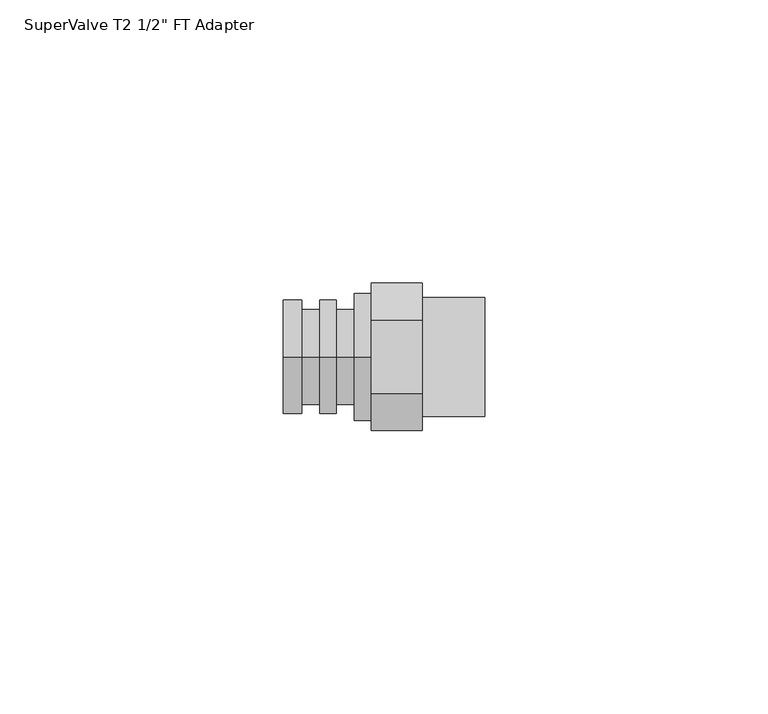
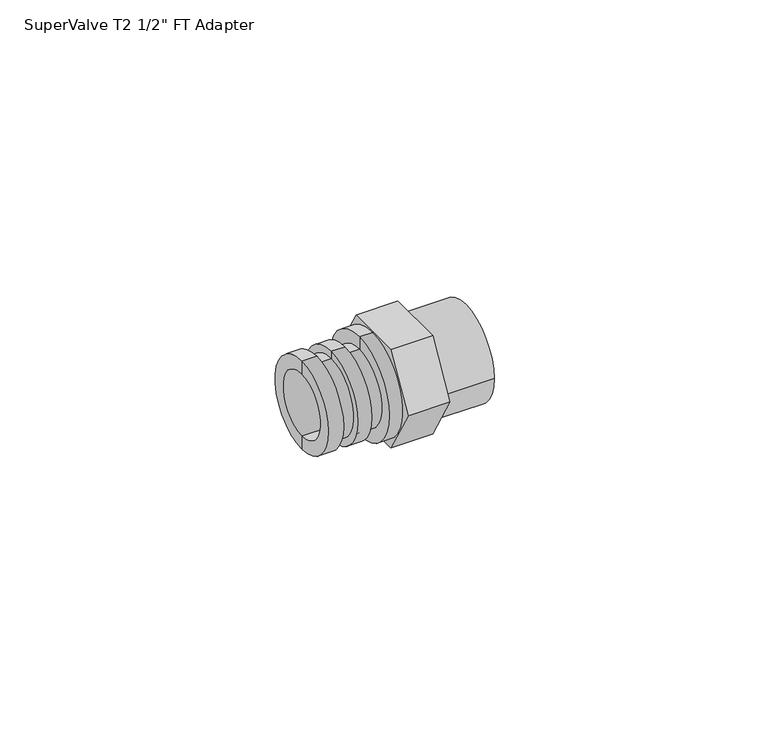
"""IFC4 building model written with IfcOpenShell, lengths in millimetres: valve geometry."""

from ifc_helpers import new_model, si_unit, point, frame, origin, origin_2d, place, context, project, spatial, polyline, circle_curve, trimmed, segment, composite_curve, outline, extrude, source, transform, mapped, element, save
from ifc_brep_helpers import plane_surface, cylinder_surface, revolved_surface, advanced_brep


def valve_ad88a9f9(model_context):
    return source(origin(), model_context, "Body", "SolidModel", [
        extrude(outline(polyline([(-12.9903811, 0.0), (-6.4951905, 11.25), (6.4951905, 11.25), (12.9903811, 0.0), (6.4951905, -11.25), (-6.4951905, -11.25), (-12.9903811, 0.0)])), frame((15.5, 0.0, 0.0), z_axis=(1.0, 0.0, 0.0), x_axis=(0.0, 1.0, 0.0)), (0.0, 0.0, 1.0), 9.0),
        extrude(outline(composite_curve([segment(trimmed(circle_curve(origin_2d(), 10.5), [point((-10.5, 0.0))], [point((10.5, 0.0))], False, "CARTESIAN"), True, "CONTINUOUS"), segment(trimmed(circle_curve(origin_2d(), 10.5), [point((10.5, 0.0))], [point((-10.5, 0.0))], False, "CARTESIAN"), True, "CONTINUOUS")], self_intersect=False), holes=[composite_curve([segment(trimmed(circle_curve(origin_2d(), 6.0), [point((-6.0, 0.0))], [point((6.0, 0.0))], True, "CARTESIAN"), True, "CONTINUOUS"), segment(trimmed(circle_curve(origin_2d(), 6.0), [point((6.0, 0.0))], [point((-6.0, 0.0))], True, "CARTESIAN"), True, "CONTINUOUS")], self_intersect=False)]), frame((24.5, 0.0, 0.0), z_axis=(1.0, 0.0, 0.0), x_axis=(0.0, 1.0, 0.0)), (0.0, 0.0, 1.0), 11.0),
        advanced_brep(
        [(12.5, 0.0, -11.25), (12.5, 0.0, 11.25), (15.5, 0.0, 11.25), (15.5, 0.0, -11.25), (15.5, 0.0, 6.0), (15.5, 0.0, -6.0), (12.5, 0.0, -6.0), (12.5, 0.0, 6.0), (12.5, 0.0, 7.1), (12.5, 0.0, -7.1), (12.5, 0.0, -8.4), (12.5, 0.0, 8.4), (9.3, 0.0, -8.4), (9.3, 0.0, 8.4), (9.3, 0.0, -10.05), (9.3, 0.0, 10.05), (6.4, 0.0, -10.05), (6.4, 0.0, 10.05), (6.4, 0.0, -8.4), (6.4, 0.0, 8.4), (3.2, 0.0, -8.4), (3.2, 0.0, 8.4), (3.2, 0.0, -10.05), (3.2, 0.0, 10.05), (0.0, 0.0, -10.05), (0.0, 0.0, 10.05), (0.0, 0.0, -7.1), (0.0, 0.0, 7.1)],
        [
            (0, 1, circle_curve(frame((12.5, 0.0, 0.0), z_axis=(1.0, 0.0, 0.0), x_axis=(0.0, 0.0, 1.0)), 11.25)),
            (1, 2),
            (2, 3, circle_curve(frame((15.5, 0.0, 0.0), z_axis=(-1.0, 0.0, 0.0), x_axis=(0.0, 0.0, 1.0)), 11.25)),
            (3, 0),
            (1, 0, circle_curve(frame((12.5, 0.0, 0.0), z_axis=(1.0, 0.0, 0.0), x_axis=(0.0, 0.0, 1.0)), 11.25)),
            (3, 2, circle_curve(frame((15.5, 0.0, 0.0), z_axis=(-1.0, 0.0, 0.0), x_axis=(0.0, 0.0, 1.0)), 11.25)),
            (2, 4),
            (4, 5, circle_curve(frame((15.5, 0.0, 0.0), z_axis=(-1.0, 0.0, 0.0), x_axis=(0.0, 0.0, 1.0)), 6.0)),
            (5, 3),
            (5, 4, circle_curve(frame((15.5, 0.0, 0.0), z_axis=(-1.0, 0.0, 0.0), x_axis=(0.0, 0.0, 1.0)), 6.0)),
            (6, 7, circle_curve(frame((12.5, 0.0, 0.0), z_axis=(1.0, 0.0, 0.0), x_axis=(0.0, 0.0, 1.0)), 6.0)),
            (7, 8),
            (8, 9, circle_curve(frame((12.5, 0.0, 0.0), z_axis=(-1.0, 0.0, 0.0), x_axis=(0.0, 0.0, 1.0)), 7.1)),
            (9, 6),
            (7, 6, circle_curve(frame((12.5, 0.0, 0.0), z_axis=(1.0, 0.0, 0.0), x_axis=(0.0, 0.0, 1.0)), 6.0)),
            (9, 8, circle_curve(frame((12.5, 0.0, 0.0), z_axis=(-1.0, 0.0, 0.0), x_axis=(0.0, 0.0, 1.0)), 7.1)),
            (10, 11, circle_curve(frame((12.5, 0.0, 0.0), z_axis=(1.0, 0.0, 0.0), x_axis=(0.0, 0.0, 1.0)), 8.4)),
            (11, 1),
            (0, 10),
            (11, 10, circle_curve(frame((12.5, 0.0, 0.0), z_axis=(1.0, 0.0, 0.0), x_axis=(0.0, 0.0, 1.0)), 8.4)),
            (12, 13, circle_curve(frame((9.3, 0.0, 0.0), z_axis=(1.0, 0.0, 0.0), x_axis=(0.0, 0.0, 1.0)), 8.4)),
            (13, 11),
            (10, 12),
            (13, 12, circle_curve(frame((9.3, 0.0, 0.0), z_axis=(1.0, 0.0, 0.0), x_axis=(0.0, 0.0, 1.0)), 8.4)),
            (14, 15, circle_curve(frame((9.3, 0.0, 0.0), z_axis=(1.0, 0.0, 0.0), x_axis=(0.0, 0.0, 1.0)), 10.05)),
            (15, 13),
            (12, 14),
            (15, 14, circle_curve(frame((9.3, 0.0, 0.0), z_axis=(1.0, 0.0, 0.0), x_axis=(0.0, 0.0, 1.0)), 10.05)),
            (16, 17, circle_curve(frame((6.4, 0.0, 0.0), z_axis=(1.0, 0.0, 0.0), x_axis=(0.0, 0.0, 1.0)), 10.05)),
            (17, 15),
            (14, 16),
            (17, 16, circle_curve(frame((6.4, 0.0, 0.0), z_axis=(1.0, 0.0, 0.0), x_axis=(0.0, 0.0, 1.0)), 10.05)),
            (18, 19, circle_curve(frame((6.4, 0.0, 0.0), z_axis=(1.0, 0.0, 0.0), x_axis=(0.0, 0.0, 1.0)), 8.4)),
            (19, 17),
            (16, 18),
            (19, 18, circle_curve(frame((6.4, 0.0, 0.0), z_axis=(1.0, 0.0, 0.0), x_axis=(0.0, 0.0, 1.0)), 8.4)),
            (20, 21, circle_curve(frame((3.2, 0.0, 0.0), z_axis=(1.0, 0.0, 0.0), x_axis=(0.0, 0.0, 1.0)), 8.4)),
            (21, 19),
            (18, 20),
            (21, 20, circle_curve(frame((3.2, 0.0, 0.0), z_axis=(1.0, 0.0, 0.0), x_axis=(0.0, 0.0, 1.0)), 8.4)),
            (22, 23, circle_curve(frame((3.2, 0.0, 0.0), z_axis=(1.0, 0.0, 0.0), x_axis=(0.0, 0.0, 1.0)), 10.05)),
            (23, 21),
            (20, 22),
            (23, 22, circle_curve(frame((3.2, 0.0, 0.0), z_axis=(1.0, 0.0, 0.0), x_axis=(0.0, 0.0, 1.0)), 10.05)),
            (24, 25, circle_curve(frame((0.0, 0.0, 0.0), z_axis=(1.0, 0.0, 0.0), x_axis=(0.0, 0.0, 1.0)), 10.05)),
            (25, 23),
            (22, 24),
            (25, 24, circle_curve(frame((0.0, 0.0, 0.0), z_axis=(1.0, 0.0, 0.0), x_axis=(0.0, 0.0, 1.0)), 10.05)),
            (26, 27, circle_curve(frame((0.0, 0.0, 0.0), z_axis=(1.0, 0.0, 0.0), x_axis=(0.0, 0.0, 1.0)), 7.1)),
            (27, 25),
            (24, 26),
            (27, 26, circle_curve(frame((0.0, 0.0, 0.0), z_axis=(1.0, 0.0, 0.0), x_axis=(0.0, 0.0, 1.0)), 7.1)),
            (8, 27),
            (26, 9),
            (4, 7),
            (6, 5),
        ],
        [
            cylinder_surface(frame((19.0, 0.0, 0.0), z_axis=(-1.0, 0.0, 0.0), x_axis=(0.0, 0.0, 1.0)), 11.25),
            plane_surface(frame((15.5, 0.0, 0.0), z_axis=(1.0, 0.0, 0.0), x_axis=(0.0, 0.0, 1.0))),
            plane_surface(frame((12.5, 0.0, 0.0), z_axis=(-1.0, 0.0, 0.0), x_axis=(0.0, 0.0, 1.0))),
            cylinder_surface(frame((19.0, 0.0, 0.0), z_axis=(-1.0, 0.0, 0.0), x_axis=(0.0, 0.0, 1.0)), 8.4),
            plane_surface(frame((9.3, 0.0, 0.0), z_axis=(1.0, 0.0, 0.0), x_axis=(0.0, 0.0, 1.0))),
            cylinder_surface(frame((19.0, 0.0, 0.0), z_axis=(-1.0, 0.0, 0.0), x_axis=(0.0, 0.0, 1.0)), 10.05),
            plane_surface(frame((6.4, 0.0, 0.0), z_axis=(-1.0, 0.0, 0.0), x_axis=(0.0, 0.0, 1.0))),
            plane_surface(frame((3.2, 0.0, 0.0), z_axis=(1.0, 0.0, 0.0), x_axis=(0.0, 0.0, 1.0))),
            plane_surface(frame((0.0, 0.0, 0.0), z_axis=(-1.0, 0.0, 0.0), x_axis=(0.0, 0.0, 1.0))),
            revolved_surface(polyline([(0.0, 0.0, 7.1), (12.5, 0.0, 7.1)]), (19.0, 0.0, 0.0), (-1.0, 0.0, 0.0)),
            revolved_surface(polyline([(12.5, 0.0, 6.0), (15.5, 0.0, 6.0)]), (19.0, 0.0, 0.0), (-1.0, 0.0, 0.0)),
        ],
        [
            (0, [[1, 2, 3, 4]]),
            (0, [[5, -4, 6, -2]]),
            (1, [[-3, 7, 8, 9]]),
            (1, [[-6, -9, 10, -7]]),
            (2, [[11, 12, 13, 14]]),
            (2, [[15, -14, 16, -12]]),
            (2, [[17, 18, -1, 19]]),
            (2, [[20, -19, -5, -18]]),
            (3, [[21, 22, -17, 23]]),
            (3, [[24, -23, -20, -22]]),
            (4, [[25, 26, -21, 27]]),
            (4, [[28, -27, -24, -26]]),
            (5, [[29, 30, -25, 31]]),
            (5, [[32, -31, -28, -30]]),
            (6, [[33, 34, -29, 35]]),
            (6, [[36, -35, -32, -34]]),
            (3, [[37, 38, -33, 39]]),
            (3, [[40, -39, -36, -38]]),
            (7, [[41, 42, -37, 43]]),
            (7, [[44, -43, -40, -42]]),
            (5, [[45, 46, -41, 47]]),
            (5, [[48, -47, -44, -46]]),
            (8, [[49, 50, -45, 51]]),
            (8, [[52, -51, -48, -50]]),
            (9, [[-13, 53, -49, 54]]),
            (9, [[-16, -54, -52, -53]]),
            (10, [[-8, 55, -11, 56]]),
            (10, [[-10, -56, -15, -55]]),
        ],
    ),
    ])


if __name__ == "__main__":
    model = new_model("IFC4")
    model_context = context("Model", 3, world=origin())
    ifc_project = project(units=[si_unit("LENGTHUNIT", "METRE", prefix="MILLI")], contexts=[model_context])
    site = spatial("IfcSite", under=ifc_project)
    building = spatial("IfcBuilding", under=site)
    placement = place(None, origin())
    valve_shape = valve_ad88a9f9(model_context)
    element("IfcValve", 1, ObjectType="SuperValve T2 MT & FT Adapters : SuperValve T2 1/2\" FT Adapter", at=placement, inside=building, context=model_context, shape_type="MappedRepresentation", body=[
        mapped(valve_shape, transform((0.0, 0.0, 0.0), x_axis=(1.0, 0.0, 0.0), y_axis=(0.0, 1.0, 0.0), z_axis=(0.0, 0.0, 1.0))),
    ])
    save(model, "model.ifc")
